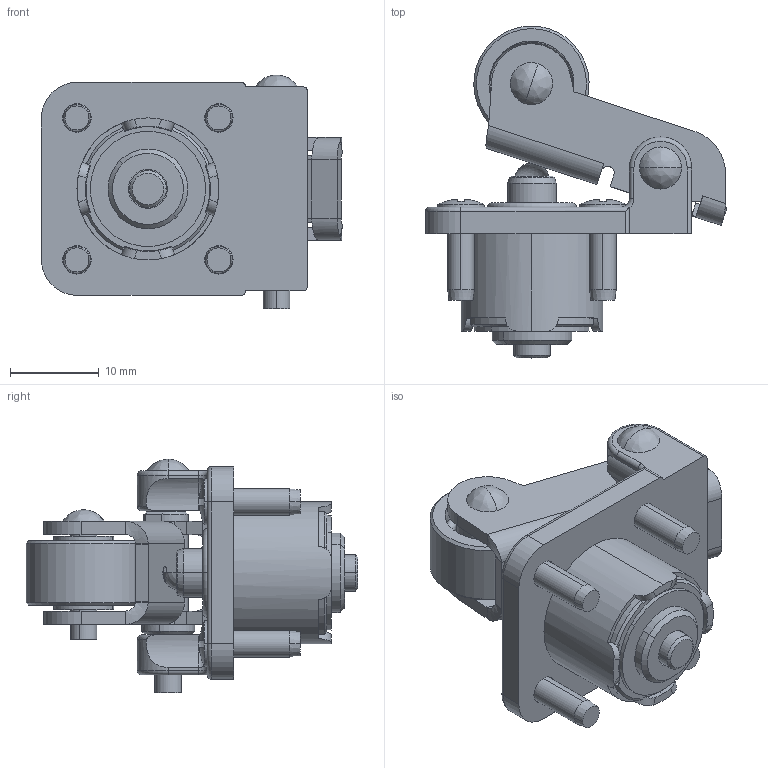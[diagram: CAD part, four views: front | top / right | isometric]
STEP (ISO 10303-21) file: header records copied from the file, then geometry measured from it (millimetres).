
FILE_DESCRIPTION((''),'2;1');
FILE_NAME('6021370629_BET_SW0002','2025-02-19T07:35:20',('Hartwig.Bicknese'),(''),'CREO PARAMETRIC BY PTC INC, 2022124','CREO PARAMETRIC BY PTC INC, 2022124','');
FILE_SCHEMA(('AUTOMOTIVE_DESIGN { 1 0 10303 214 1 1 1 1 }'));
Length unit declared in the file: millimetre
Products named in the file (1): 6021370629_BET_SW0002
Bounding box: 33.94 x 37.42 x 26.3 mm (x, y, z)
Volume: 7071.1 mm3; surface area: 6983.9 mm2
Topology: 3 solids, 3 shells, 507 faces, 1208 edges, 697 vertices
Faces by surface type: plane 252, cylinder 126, cone 73, torus 34, bspline 12, sphere 10
Entity records: 24671 total; most frequent: CARTESIAN_POINT 5226, DIRECTION 2559, ORIENTED_EDGE 2356, PRESENTATION_STYLE_ASSIGNMENT 1688, STYLED_ITEM 1181, CURVE_STYLE 1178, EDGE_CURVE 1178, AXIS2_PLACEMENT_3D 958
